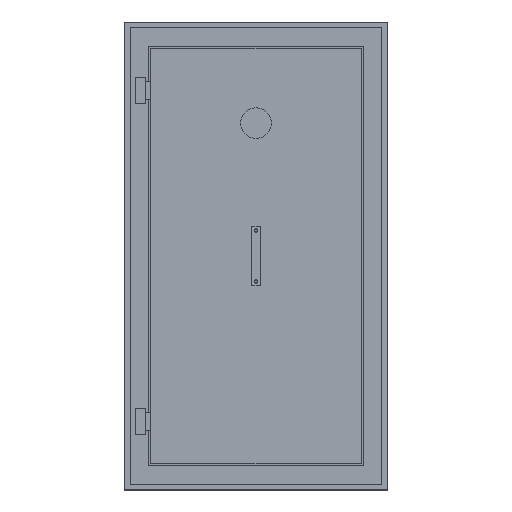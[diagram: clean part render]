
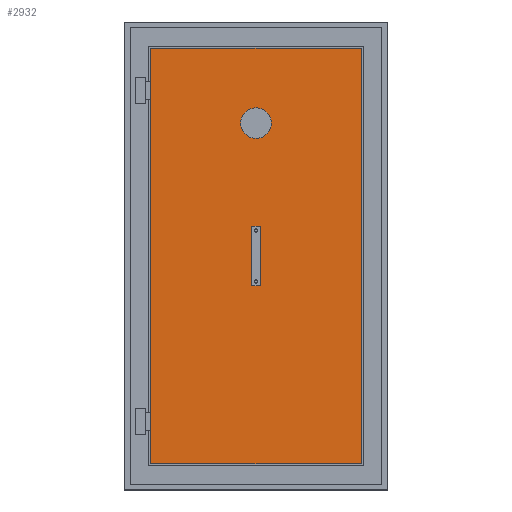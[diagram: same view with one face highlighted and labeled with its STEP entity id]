
A CAD part, top view. The second image highlights one B-rep face of the part: STEP entity #2932.
In plain terms, the highlighted planar face has unit normal (0, 0, 1).
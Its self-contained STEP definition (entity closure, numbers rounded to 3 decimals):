
#825=DIRECTION('',(0.,-1.,0.));
#826=VECTOR('',#825,2032.);
#827=CARTESIAN_POINT('',(-516.,1016.,-41.));
#828=LINE('',#827,#826);
#829=DIRECTION('',(-1.,0.,0.));
#830=VECTOR('',#829,1032.);
#831=CARTESIAN_POINT('',(516.,1016.,-41.));
#832=LINE('',#831,#830);
#833=DIRECTION('',(0.,1.,0.));
#834=VECTOR('',#833,2032.);
#835=CARTESIAN_POINT('',(516.,-1016.,-41.));
#836=LINE('',#835,#834);
#837=DIRECTION('',(1.,0.,0.));
#838=VECTOR('',#837,1032.);
#839=CARTESIAN_POINT('',(-516.,-1016.,-41.));
#840=LINE('',#839,#838);
#841=CARTESIAN_POINT('',(0.,0.,-41.));
#842=DIRECTION('',(0.,0.,1.));
#843=DIRECTION('',(1.,0.,0.));
#844=AXIS2_PLACEMENT_3D('',#841,#842,#843);
#846=CARTESIAN_POINT('',(0.,0.,-41.));
#847=DIRECTION('',(0.,0.,1.));
#848=DIRECTION('',(-1.,0.,0.));
#849=AXIS2_PLACEMENT_3D('',#846,#847,#848);
#851=CARTESIAN_POINT('',(0.,650.,-41.));
#852=DIRECTION('',(0.,0.,1.));
#853=DIRECTION('',(1.,0.,0.));
#854=AXIS2_PLACEMENT_3D('',#851,#852,#853);
#856=CARTESIAN_POINT('',(0.,650.,-41.));
#857=DIRECTION('',(0.,0.,1.));
#858=DIRECTION('',(-1.,0.,0.));
#859=AXIS2_PLACEMENT_3D('',#856,#857,#858);
#1394=CARTESIAN_POINT('',(-516.,1016.,-41.));
#1395=CARTESIAN_POINT('',(-516.,-1016.,-41.));
#1396=VERTEX_POINT('',#1394);
#1397=VERTEX_POINT('',#1395);
#1398=CARTESIAN_POINT('',(516.,-1016.,-41.));
#1399=VERTEX_POINT('',#1398);
#1400=CARTESIAN_POINT('',(516.,1016.,-41.));
#1401=VERTEX_POINT('',#1400);
#1622=CARTESIAN_POINT('',(20.,0.,-41.));
#1623=CARTESIAN_POINT('',(-20.,0.,-41.));
#1624=VERTEX_POINT('',#1622);
#1625=VERTEX_POINT('',#1623);
#1702=CARTESIAN_POINT('',(75.,650.,-41.));
#1703=CARTESIAN_POINT('',(-75.,650.,-41.));
#1704=VERTEX_POINT('',#1702);
#1705=VERTEX_POINT('',#1703);
#2907=CARTESIAN_POINT('',(0.,0.,-41.));
#2908=DIRECTION('',(0.,0.,1.));
#2909=DIRECTION('',(1.,0.,0.));
#2910=AXIS2_PLACEMENT_3D('',#2907,#2908,#2909);
#2911=PLANE('',#2910);
#2913=ORIENTED_EDGE('',*,*,#2912,.F.);
#2915=ORIENTED_EDGE('',*,*,#2914,.F.);
#2917=ORIENTED_EDGE('',*,*,#2916,.F.);
#2919=ORIENTED_EDGE('',*,*,#2918,.F.);
#2920=EDGE_LOOP('',(#2913,#2915,#2917,#2919));
#2921=FACE_OUTER_BOUND('',#2920,.F.);
#2922=ORIENTED_EDGE('',*,*,#2482,.T.);
#2923=ORIENTED_EDGE('',*,*,#2889,.T.);
#2924=EDGE_LOOP('',(#2922,#2923));
#2925=FACE_BOUND('',#2924,.F.);
#2927=ORIENTED_EDGE('',*,*,#2926,.T.);
#2929=ORIENTED_EDGE('',*,*,#2928,.T.);
#2930=EDGE_LOOP('',(#2927,#2929));
#2931=FACE_BOUND('',#2930,.F.);
#845=CIRCLE('',#844,20.);
#850=CIRCLE('',#849,20.);
#855=CIRCLE('',#854,75.);
#860=CIRCLE('',#859,75.);
#2482=EDGE_CURVE('',#1624,#1625,#845,.T.);
#2889=EDGE_CURVE('',#1625,#1624,#850,.T.);
#2912=EDGE_CURVE('',#1396,#1397,#828,.T.);
#2914=EDGE_CURVE('',#1401,#1396,#832,.T.);
#2916=EDGE_CURVE('',#1399,#1401,#836,.T.);
#2918=EDGE_CURVE('',#1397,#1399,#840,.T.);
#2926=EDGE_CURVE('',#1704,#1705,#855,.T.);
#2928=EDGE_CURVE('',#1705,#1704,#860,.T.);
#2932=ADVANCED_FACE('',(#2921,#2925,#2931),#2911,.T.);
